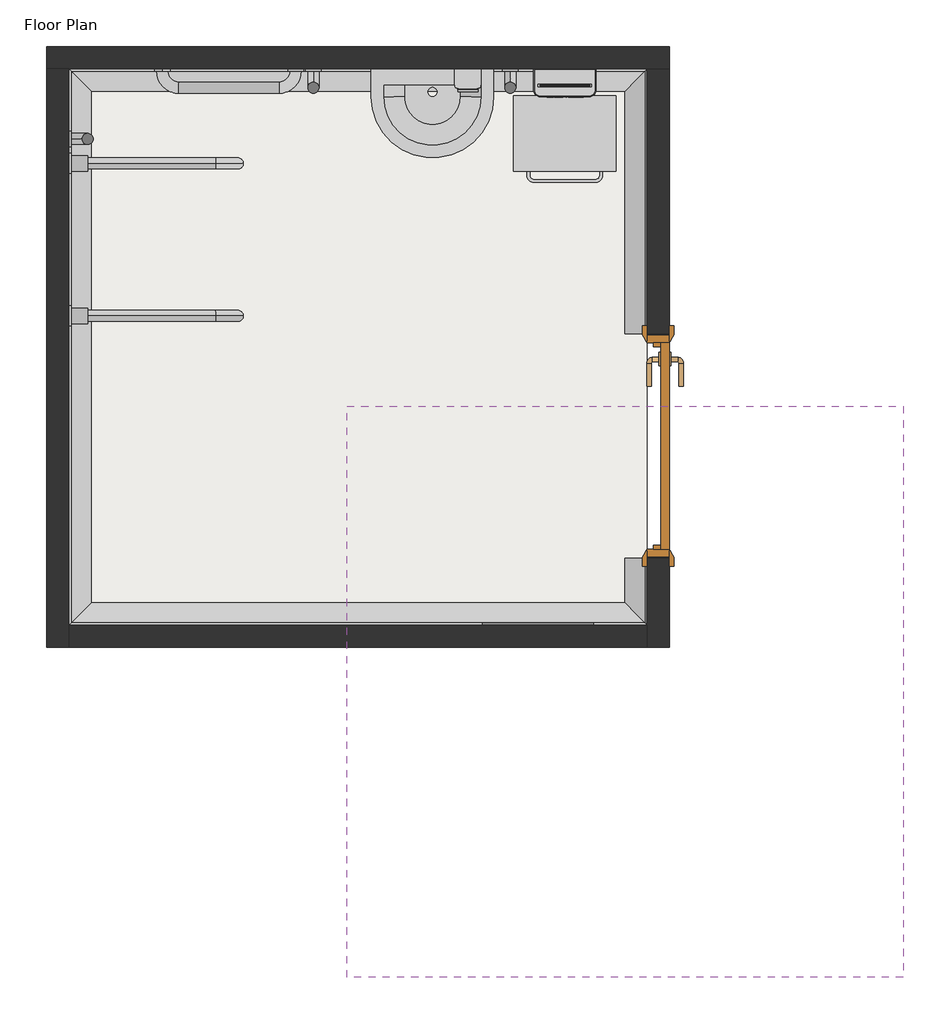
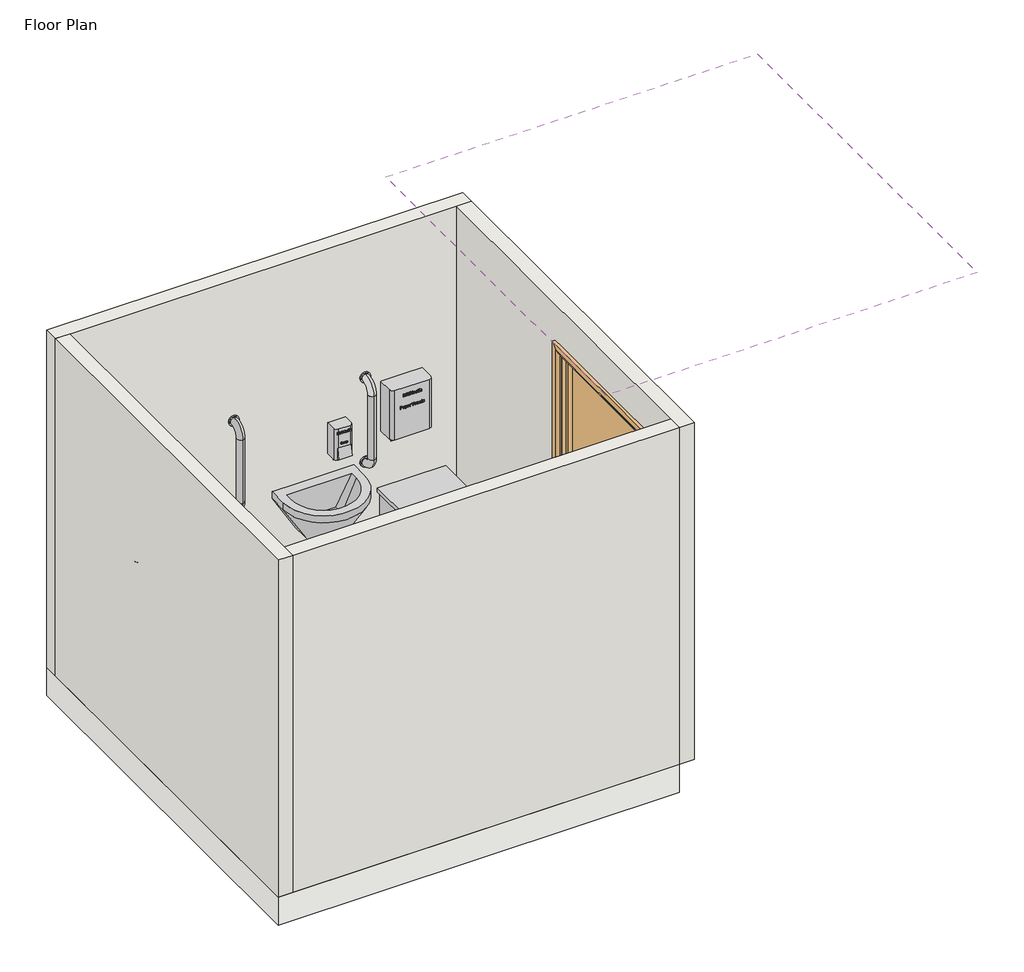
# One storey, incomplete: 10 proxies, 4 furniture elements, 4 walls, 1 covering, 1 door, 1 flow terminal, 1 slab.
"""IFC4 building model written with IfcOpenShell, lengths in millimetres."""

from ifc_helpers import new_model, si_unit, frame, origin, origin_with_axes, place, context, project, spatial, polyline, circle_curve, ellipse_curve, outline, extrude, faceted_brep, transform, mapped, element, save
from ifc_brep_helpers import plane_surface, revolved_surface, advanced_brep
from components import type_1_3e4eb001, type_1_f4c963d5, type_1_f76a5bbc, type_1_f275d547, type_1_04eb1ea4, door_1010x2110mm_f9eb5fde, flow_terminal_9bf15598, furniture_29951476, furniture_af9008cf, furniture_166ce8d1, furniture_26d36cfe

model = new_model("IFC4")

# Units and contexts
model_context = context("Model", 3, world=origin())
ifc_project = project(units=[si_unit("LENGTHUNIT", "METRE", prefix="MILLI")], contexts=[model_context])

# Site, building, storey
site = spatial("IfcSite", under=ifc_project)
building = spatial("IfcBuilding", under=site)
storey = spatial("IfcBuildingStorey", under=building, Name="Floor Plan", Elevation=0.0)

# Proxies
placement = place(None, origin())
element("IfcBuildingElementProxy", 1, Name="Wall Sweeps", at=placement, inside=storey, context=model_context, shape_type="AdvancedBrep", body=[
    advanced_brep(
    [(2105.0, 4225.0, 0.0), (2105.0, 4225.0, 100.0), (2095.0, 4225.0, 100.0), (2005.0, 4225.0, 10.0), (2005.0, 4225.0, 0.0), (2105.0, 5415.0, 0.0), (2005.0, 5315.0, 0.0), (2005.0, 5315.0, 10.0), (2095.0, 5405.0, 100.0), (2105.0, 5415.0, 100.0)],
    [
        (0, 1),
        (1, 2),
        (2, 3, circle_curve(frame((2005.0, 4225.0, 100.0), z_axis=(0.0, 1.0, 0.0), x_axis=(-1.0, 0.0, 0.0)), 90.0)),
        (3, 4),
        (4, 0),
        (5, 6),
        (6, 7),
        (7, 8, ellipse_curve(frame((2005.0, 5315.0, 100.0), z_axis=(0.7071067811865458, -0.7071067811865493, 0.0), x_axis=(0.7071067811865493, 0.7071067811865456, 0.0)), 127.2792206, 90.0)),
        (8, 9),
        (9, 5),
        (4, 6),
        (5, 0),
        (3, 7),
        (2, 8),
        (1, 9),
    ],
    [
        plane_surface(frame((2004.5012438, 4225.0, 0.0), z_axis=(0.0, -1.0, 0.0), x_axis=(0.0, 0.0, 1.0))),
        plane_surface(frame((2105.0, 5415.0, -304.8), z_axis=(-0.7071067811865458, 0.7071067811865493, 0.0), x_axis=(-0.7071067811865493, -0.7071067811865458, 0.0))),
        plane_surface(frame((2005.0, 4225.0, 0.0), z_axis=(0.0, 0.0, -1.0), x_axis=(0.0, 1.0, 0.0))),
        plane_surface(frame((2005.0, 4225.0, 10.0), z_axis=(-1.0, 0.0, 0.0), x_axis=(0.0, 1.0, 0.0))),
        revolved_surface(polyline([(1915.0, 5405.0, 100.0), (1915.0, 4225.0, 100.0)]), (2005.0, 4225.0, 100.0), (0.0, 1.0, 0.0)),
        plane_surface(frame((2105.0, 4225.0, 100.0), z_axis=(0.0, 0.0, 1.0), x_axis=(0.0, 1.0, 0.0))),
        plane_surface(frame((2105.0, 4225.0, 0.0), z_axis=(1.0, 0.0, 0.0), x_axis=(0.0, 1.0, 0.0))),
    ],
    [
        (0, [[1, 2, 3, 4, 5]]),
        (1, [[6, 7, 8, 9, 10]]),
        (2, [[-5, 11, -6, 12]]),
        (3, [[-4, 13, -7, -11]]),
        (4, [[-3, 14, -8, -13]]),
        (5, [[-2, 15, -9, -14]]),
        (6, [[-1, -12, -10, -15]]),
    ],
),
    advanced_brep(
    [(2105.0, 2915.0, 0.0), (2105.0, 2915.0, 100.0), (2095.0, 2925.0, 100.0), (2005.0, 3015.0, 10.0), (2005.0, 3015.0, 0.0), (2105.0, 3215.0, 0.0), (2005.0, 3215.0, 0.0), (2005.0, 3215.0, 10.0), (2095.0, 3215.0, 100.0), (2105.0, 3215.0, 100.0)],
    [
        (0, 1),
        (1, 2),
        (2, 3, ellipse_curve(frame((2005.0, 3015.0, 100.0), z_axis=(0.7071067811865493, 0.7071067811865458, 0.0), x_axis=(-0.7071067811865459, 0.7071067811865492, 0.0)), 127.2792206, 90.0)),
        (3, 4),
        (4, 0),
        (5, 6),
        (6, 7),
        (7, 8, circle_curve(frame((2005.0, 3215.0, 100.0), z_axis=(0.0, -1.0, 0.0), x_axis=(-1.0, 0.0, 0.0)), 90.0)),
        (8, 9),
        (9, 5),
        (4, 6),
        (5, 0),
        (3, 7),
        (2, 8),
        (1, 9),
    ],
    [
        plane_surface(frame((2105.0, 2915.0, -304.8), z_axis=(-0.7071067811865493, -0.7071067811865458, 0.0), x_axis=(-0.7071067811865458, 0.7071067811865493, 0.0))),
        plane_surface(frame((2004.5012438, 3215.0, 0.0), z_axis=(0.0, 1.0, 0.0), x_axis=(0.0, 0.0, 1.0))),
        plane_surface(frame((2005.0, 3015.0, 0.0), z_axis=(0.0, 0.0, -1.0), x_axis=(0.0, 1.0, 0.0))),
        plane_surface(frame((2005.0, 3015.0, 10.0), z_axis=(-1.0, 0.0, 0.0), x_axis=(0.0, 1.0, 0.0))),
        revolved_surface(polyline([(1915.0, 3215.0, 100.0), (1915.0, 2925.0, 100.0)]), (2005.0, 2915.0, 100.0), (0.0, 1.0, 0.0)),
        plane_surface(frame((2105.0, 2915.0, 100.0), z_axis=(0.0, 0.0, 1.0), x_axis=(0.0, 1.0, 0.0))),
        plane_surface(frame((2105.0, 2915.0, 0.0), z_axis=(1.0, 0.0, 0.0), x_axis=(0.0, 1.0, 0.0))),
    ],
    [
        (0, [[1, 2, 3, 4, 5]]),
        (1, [[6, 7, 8, 9, 10]]),
        (2, [[-5, 11, -6, 12]]),
        (3, [[-4, 13, -7, -11]]),
        (4, [[-3, 14, -8, -13]]),
        (5, [[-2, 15, -9, -14]]),
        (6, [[-1, -12, -10, -15]]),
    ],
),
])
element("IfcBuildingElementProxy", 2, Name="Wall Sweeps", at=placement, inside=storey, context=model_context, shape_type="AdvancedBrep", body=[
    advanced_brep(
    [(-495.0, 5415.0, 0.0), (-395.0, 5315.0, 0.0), (-395.0, 5315.0, 10.0), (-485.0, 5405.0, 100.0), (-495.0, 5415.0, 100.0), (2105.0, 5415.0, 0.0), (2105.0, 5415.0, 100.0), (2095.0, 5405.0, 100.0), (2005.0, 5315.0, 10.0), (2005.0, 5315.0, 0.0)],
    [
        (0, 1),
        (1, 2),
        (2, 3, ellipse_curve(frame((-395.0, 5315.0, 100.0), z_axis=(0.7071067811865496, 0.7071067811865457, 0.0), x_axis=(0.7071067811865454, -0.7071067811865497, 0.0)), 127.2792206, 90.0)),
        (3, 4),
        (4, 0),
        (5, 6),
        (6, 7),
        (7, 8, ellipse_curve(frame((2005.0, 5315.0, 100.0), z_axis=(-0.7071067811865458, 0.7071067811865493, 0.0), x_axis=(0.7071067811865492, 0.7071067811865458, 0.0)), 127.2792206, 90.0)),
        (8, 9),
        (9, 5),
        (0, 5),
        (9, 1),
        (8, 2),
        (7, 3),
        (6, 4),
    ],
    [
        plane_surface(frame((-495.0, 5415.0, 304.8), z_axis=(-0.7071067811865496, -0.7071067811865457, 0.0), x_axis=(0.7071067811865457, -0.7071067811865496, 0.0))),
        plane_surface(frame((2105.0, 5415.0, 304.8), z_axis=(0.7071067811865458, -0.7071067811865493, 0.0), x_axis=(-0.7071067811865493, -0.7071067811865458, 0.0))),
        plane_surface(frame((-495.0, 5415.0, 0.0), z_axis=(0.0, 0.0, -1.0), x_axis=(1.0, 0.0, 0.0))),
        plane_surface(frame((-395.0, 5315.0, 0.0), z_axis=(0.0, -1.0, 0.0), x_axis=(1.0, 0.0, 0.0))),
        revolved_surface(polyline([(2095.0, 5225.0, 100.0), (-485.0, 5225.0, 100.0)]), (-495.0, 5315.0, 100.0), (1.0, 0.0, 0.0)),
        plane_surface(frame((-485.0, 5405.0, 100.0), z_axis=(0.0, 0.0, 1.0), x_axis=(1.0, 0.0, 0.0))),
        plane_surface(frame((-495.0, 5415.0, 100.0), z_axis=(0.0, 1.0, 0.0), x_axis=(1.0, 0.0, 0.0))),
    ],
    [
        (0, [[1, 2, 3, 4, 5]]),
        (1, [[6, 7, 8, 9, 10]]),
        (2, [[-1, 11, -10, 12]]),
        (3, [[-2, -12, -9, 13]]),
        (4, [[-3, -13, -8, 14]]),
        (5, [[-4, -14, -7, 15]]),
        (6, [[-5, -15, -6, -11]]),
    ],
),
])
element("IfcBuildingElementProxy", 3, Name="Wall Sweeps", at=placement, inside=storey, context=model_context, shape_type="AdvancedBrep", body=[
    advanced_brep(
    [(-495.0, 5415.0, 0.0), (-495.0, 5415.0, 100.0), (-485.0, 5405.0, 100.0), (-395.0, 5315.0, 10.0), (-395.0, 5315.0, 0.0), (-495.0, 2915.0, 0.0), (-395.0, 3015.0, 0.0), (-395.0, 3015.0, 10.0), (-485.0, 2925.0, 100.0), (-495.0, 2915.0, 100.0)],
    [
        (0, 1),
        (1, 2),
        (2, 3, ellipse_curve(frame((-395.0, 5315.0, 100.0), z_axis=(-0.7071067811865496, -0.7071067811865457, 0.0), x_axis=(0.7071067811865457, -0.7071067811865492, 0.0)), 127.2792206, 90.0)),
        (3, 4),
        (4, 0),
        (5, 6),
        (6, 7),
        (7, 8, ellipse_curve(frame((-395.0, 3015.0, 100.0), z_axis=(-0.707106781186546, 0.7071067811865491, 0.0), x_axis=(-0.7071067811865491, -0.7071067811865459, 0.0)), 127.2792206, 90.0)),
        (8, 9),
        (9, 5),
        (0, 5),
        (9, 1),
        (8, 2),
        (7, 3),
        (6, 4),
    ],
    [
        plane_surface(frame((-495.0, 5415.0, -304.8), z_axis=(0.7071067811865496, 0.7071067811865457, 0.0), x_axis=(0.7071067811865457, -0.7071067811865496, 0.0))),
        plane_surface(frame((-495.0, 2915.0, -304.8), z_axis=(0.707106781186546, -0.7071067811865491, 0.0), x_axis=(0.7071067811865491, 0.707106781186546, 0.0))),
        plane_surface(frame((-495.0, 5415.0, 0.0), z_axis=(-1.0, 0.0, 0.0), x_axis=(0.0, -1.0, 0.0))),
        plane_surface(frame((-495.0, 5415.0, 100.0), z_axis=(0.0, 0.0, 1.0), x_axis=(0.0, -1.0, 0.0))),
        revolved_surface(polyline([(-305.0, 2925.0, 100.0), (-305.0, 5405.0, 100.0)]), (-395.0, 5415.0, 100.0), (0.0, -1.0, 0.0)),
        plane_surface(frame((-395.0, 5315.0, 10.0), z_axis=(1.0, 0.0, 0.0), x_axis=(0.0, -1.0, 0.0))),
        plane_surface(frame((-395.0, 5315.0, 0.0), z_axis=(0.0, 0.0, -1.0), x_axis=(0.0, -1.0, 0.0))),
    ],
    [
        (0, [[1, 2, 3, 4, 5]]),
        (1, [[6, 7, 8, 9, 10]]),
        (2, [[-1, 11, -10, 12]]),
        (3, [[-2, -12, -9, 13]]),
        (4, [[-3, -13, -8, 14]]),
        (5, [[-4, -14, -7, 15]]),
        (6, [[-5, -15, -6, -11]]),
    ],
),
])
element("IfcBuildingElementProxy", 4, Name="Wall Sweeps", at=placement, inside=storey, context=model_context, shape_type="AdvancedBrep", body=[
    advanced_brep(
    [(-495.0, 2915.0, 0.0), (-495.0, 2915.0, 100.0), (-485.0, 2925.0, 100.0), (-395.0, 3015.0, 10.0), (-395.0, 3015.0, 0.0), (2105.0, 2915.0, 0.0), (2005.0, 3015.0, 0.0), (2005.0, 3015.0, 10.0), (2095.0, 2925.0, 100.0), (2105.0, 2915.0, 100.0)],
    [
        (0, 1),
        (1, 2),
        (2, 3, ellipse_curve(frame((-395.0, 3015.0, 100.0), z_axis=(0.7071067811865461, -0.7071067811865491, 0.0), x_axis=(0.7071067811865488, 0.7071067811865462, 0.0)), 127.2792206, 90.0)),
        (3, 4),
        (4, 0),
        (5, 6),
        (6, 7),
        (7, 8, ellipse_curve(frame((2005.0, 3015.0, 100.0), z_axis=(-0.7071067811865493, -0.7071067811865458, 0.0), x_axis=(0.7071067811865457, -0.7071067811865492, 0.0)), 127.2792206, 90.0)),
        (8, 9),
        (9, 5),
        (0, 5),
        (9, 1),
        (8, 2),
        (7, 3),
        (6, 4),
    ],
    [
        plane_surface(frame((-495.0, 2915.0, -304.8), z_axis=(-0.7071067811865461, 0.7071067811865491, 0.0), x_axis=(0.7071067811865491, 0.7071067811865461, 0.0))),
        plane_surface(frame((2105.0, 2915.0, -304.8), z_axis=(0.7071067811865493, 0.7071067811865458, 0.0), x_axis=(-0.7071067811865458, 0.7071067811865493, 0.0))),
        plane_surface(frame((-495.0, 2915.0, 0.0), z_axis=(0.0, -1.0, 0.0), x_axis=(1.0, 0.0, 0.0))),
        plane_surface(frame((-495.0, 2915.0, 100.0), z_axis=(0.0, 0.0, 1.0), x_axis=(1.0, 0.0, 0.0))),
        revolved_surface(polyline([(2095.0, 3105.0, 100.0), (-485.0, 3105.0, 100.0)]), (-495.0, 3015.0, 100.0), (1.0, 0.0, 0.0)),
        plane_surface(frame((-395.0, 3015.0, 10.0), z_axis=(0.0, 1.0, 0.0), x_axis=(1.0, 0.0, 0.0))),
        plane_surface(frame((-395.0, 3015.0, 0.0), z_axis=(0.0, 0.0, -1.0), x_axis=(1.0, 0.0, 0.0))),
    ],
    [
        (0, [[1, 2, 3, 4, 5]]),
        (1, [[6, 7, 8, 9, 10]]),
        (2, [[-1, 11, -10, 12]]),
        (3, [[-2, -12, -9, 13]]),
        (4, [[-3, -13, -8, 14]]),
        (5, [[-4, -14, -7, 15]]),
        (6, [[-5, -15, -6, -11]]),
    ],
),
])
type_1_shape = type_1_3e4eb001(model_context)
element("IfcBuildingElementProxy", 5, Name="BIMHealth-Grab_Rail_Vertical-LOD2A-v1 : Type 1", ObjectType="BIMHealth-Grab_Rail_Vertical-LOD2A-v1 : Type 1", at=placement, inside=storey, context=model_context, shape_type="MappedRepresentation", body=[
    mapped(type_1_shape, transform((730.0, 5465.0, 0.0), x_axis=(-1.0, 0.0, 0.0), y_axis=(0.0, -1.0, 0.0), z_axis=(0.0, 0.0, 1.0))),
])
type_1_2_shape = type_1_f4c963d5(model_context)
element("IfcBuildingElementProxy", 6, Name="BIMHealth-Grab_Rail_Vertical-LOD2A-v1 : Type 1", ObjectType="BIMHealth-Grab_Rail_Vertical-LOD2A-v1 : Type 1", at=placement, inside=storey, context=model_context, shape_type="MappedRepresentation", body=[
    mapped(type_1_2_shape, transform((1365.0, 5465.0, 0.0), x_axis=(1.0, 0.0, 0.0), y_axis=(0.0, 1.0, 0.0), z_axis=(0.0, 0.0, 1.0))),
])
element("IfcBuildingElementProxy", 7, Name="BIMHealth-Grab_Rail_Vertical-LOD2A-v1 : Type 1", ObjectType="BIMHealth-Grab_Rail_Vertical-LOD2A-v1 : Type 1", at=placement, inside=storey, context=model_context, shape_type="MappedRepresentation", body=[
    mapped(type_1_2_shape, transform((-545.0, 4975.0, 0.0), x_axis=(0.0, 1.0, 0.0), y_axis=(-1.0, 0.0, 0.0), z_axis=(0.0, 0.0, 1.0))),
])
type_1_3_shape = type_1_f76a5bbc(model_context)
element("IfcBuildingElementProxy", 8, Name="BIMHealth-Grab_Rail_Horizontal-LOD2A-v1 : Type 1", ObjectType="BIMHealth-Grab_Rail_Horizontal-LOD2A-v1 : Type 1", at=placement, inside=storey, context=model_context, shape_type="MappedRepresentation", body=[
    mapped(type_1_3_shape, transform((100.0, 5465.0, 0.0), x_axis=(1.0, 0.0, 0.0), y_axis=(0.0, 1.0, 0.0), z_axis=(0.0, 0.0, 1.0))),
])
type_1_4_shape = type_1_f275d547(model_context)
element("IfcBuildingElementProxy", 9, Name="BIMHealth-Grab_Rail_Drop_Down-LOD2A-v1 : Type 1", ObjectType="BIMHealth-Grab_Rail_Drop_Down-LOD2A-v1 : Type 1", at=placement, inside=storey, context=model_context, shape_type="MappedRepresentation", body=[
    mapped(type_1_4_shape, transform((-545.0, 4865.0, 0.0), x_axis=(0.0, 1.0, 0.0), y_axis=(-1.0, 0.0, 0.0), z_axis=(0.0, 0.0, 1.0))),
])
type_1_5_shape = type_1_04eb1ea4(model_context)
element("IfcBuildingElementProxy", 10, Name="BIMHealth-Grab_Rail_Drop_Down-LOD2A-v1 : Type 1", ObjectType="BIMHealth-Grab_Rail_Drop_Down-LOD2A-v1 : Type 1", at=placement, inside=storey, context=model_context, shape_type="MappedRepresentation", body=[
    mapped(type_1_5_shape, transform((-545.0, 4430.0, 0.0), x_axis=(0.0, -1.0, 0.0), y_axis=(1.0, 0.0, 0.0), z_axis=(0.0, 0.0, 1.0))),
])

# Covering
element("IfcCovering", 11, ObjectType="BIMHealth - Generic Ceiling", at=placement, inside=storey, context=model_context, shape_type="SweptSolid", body=[
    extrude(outline(polyline([(3256.0020268, 1331.4241738), (756.0020268, 1331.4241738), (756.0020268, 3898.7260975), (3256.0020268, 3898.7260975), (3256.0020268, 1331.4241738)])), frame((0.0, 0.0, 4000.0), z_axis=(0.0, 0.0, 1.0), x_axis=(1.0, 0.0, 0.0)), (0.0, 0.0, 1.0), 52.0),
])

# Door
door_1010x2110mm_shape = door_1010x2110mm_f9eb5fde(model_context)
element("IfcDoor", 12, ObjectType="BIMHealth-Single_Door-LOD2A-v1 : 1010x2110mm", at=placement, inside=storey, context=model_context, shape_type="MappedRepresentation", body=[
    mapped(door_1010x2110mm_shape, transform((2155.0, 3720.0, 0.0), x_axis=(0.0, -1.0, 0.0), y_axis=(1.0, 0.0, 0.0), z_axis=(0.0, 0.0, 1.0))),
])

# Flow terminal
flow_terminal_shape = flow_terminal_9bf15598(model_context)
element("IfcFlowTerminal", 13, ObjectType="BIMHealth-Wash_basin_Doc_M-LOD2A-v1 : BIMHealth-Wash_basin_Doc_M-LOD2A-v1", at=placement, inside=storey, context=model_context, shape_type="MappedRepresentation", body=[
    mapped(flow_terminal_shape, transform((1415.0, 5415.0, 500.0), x_axis=(-1.0000000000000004, 0.0, 0.0), y_axis=(0.0, -1.0000000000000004, 0.0), z_axis=(0.0, 0.0, 1.0))),
])

# Furniture
furniture_shape = furniture_29951476(model_context)
element("IfcFurniture", 14, ObjectType="BIMHealth-Mirror_Consultation-LOD2A-v1 : BIMHealth-Mirror_Consultation-LOD2A-v1", at=placement, inside=storey, context=model_context, shape_type="MappedRepresentation", body=[
    mapped(furniture_shape, transform((1865.0, 2915.0, -500.0), x_axis=(-1.0, 0.0, 0.0), y_axis=(0.0, -1.0, 0.0), z_axis=(0.0, 0.0, 1.0))),
])
furniture_2_shape = furniture_af9008cf(model_context)
element("IfcFurniture", 15, ObjectType="BIMHealth-Bin_Clinical_Foot_Operated-LOD2A-v1 : BIMHealth-Bin_Clinical_Foot_Operated-LOD2A-v1", at=placement, inside=storey, context=model_context, shape_type="MappedRepresentation", body=[
    mapped(furniture_2_shape, transform((1955.0, 5285.0, 0.0), x_axis=(-1.0000000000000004, 0.0, 0.0), y_axis=(0.0, -1.0000000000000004, 0.0), z_axis=(0.0, 0.0, 1.0))),
])
furniture_3_shape = furniture_166ce8d1(model_context)
element("IfcFurniture", 16, ObjectType="BIMHealth-Paper_Towel_Dispenser-LOD2A-v1 : BIMHealth-Paper_Towel_Dispenser-LOD2A-v1", at=placement, inside=storey, context=model_context, shape_type="MappedRepresentation", body=[
    mapped(furniture_3_shape, transform((1595.0, 5415.0, -218.992029), x_axis=(1.0, 0.0, 0.0), y_axis=(0.0, 1.0, 0.0), z_axis=(0.0, 0.0, 1.0))),
])
furniture_4_shape = furniture_26d36cfe(model_context)
element("IfcFurniture", 17, ObjectType="BIMHealth-Soap_Dispenser-LOD2A-v1 : BIMHealth-Soap_Dispenser-LOD2A-v1", at=placement, inside=storey, context=model_context, shape_type="MappedRepresentation", body=[
    mapped(furniture_4_shape, transform((1239.0, 5415.0, -258.992029), x_axis=(1.0, 0.0, 0.0), y_axis=(0.0, 1.0, 0.0), z_axis=(0.0, 0.0, 1.0))),
])

# Slab
element("IfcSlab", 18, ObjectType="BIMHealth - Generic Floor", at=placement, inside=storey, context=model_context, shape_type="SweptSolid", body=[
    extrude(outline(polyline([(2105.0, 5515.0), (2105.0, 2815.0), (-595.0, 2815.0), (-595.0, 5515.0), (2105.0, 5515.0)])), frame((0.0, 0.0, -200.0), z_axis=(0.0, 0.0, 1.0), x_axis=(1.0, 0.0, 0.0)), (0.0, 0.0, 1.0), 200.0),
])

# Walls
element("IfcWall", 19, ObjectType="BIMHealth - Generic Wall", at=placement, inside=storey, context=model_context, shape_type="Brep", body=[
    faceted_brep([(2205.0, 5415.0, 2400.0), (2205.0, 2815.0, 2400.0), (2205.0, 2815.0, 0.0), (2205.0, 3215.0, 0.0), (2205.0, 3215.0, 2110.0), (2205.0, 4225.0, 2110.0), (2205.0, 4225.0, 0.0), (2205.0, 5415.0, 0.0), (2105.0, 2815.0, 2400.0), (2105.0, 2915.0, 2400.0), (2105.0, 5415.0, 2400.0), (2105.0, 5415.0, 0.0), (2105.0, 4225.0, 0.0), (2105.0, 4225.0, 100.0), (2105.0, 4225.0, 2110.0), (2105.0, 3215.0, 2110.0), (2105.0, 3215.0, 100.0), (2105.0, 3215.0, 0.0), (2105.0, 2915.0, 0.0), (2105.0, 2815.0, 0.0)], [[[0, 1, 2, 3, 4, 5, 6, 7]], [[8, 9, 10, 11, 12, 13, 14, 15, 16, 17, 18, 19]], [[2, 19, 18, 17, 3]], [[11, 7, 6, 12]], [[1, 0, 10, 9, 8]], [[15, 4, 3, 17, 16]], [[4, 15, 14, 5]], [[5, 14, 13, 12, 6]], [[2, 1, 8, 19]], [[0, 7, 11, 10]]]),
])
element("IfcWall", 20, ObjectType="BIMHealth - Generic Wall", at=placement, inside=storey, context=model_context, shape_type="Brep", body=[
    faceted_brep([(-595.0, 5415.0, 0.0), (-495.0, 5415.0, 0.0), (2105.0, 5415.0, 0.0), (2205.0, 5415.0, 0.0), (2205.0, 5415.0, 2400.0), (2105.0, 5415.0, 2400.0), (-495.0, 5415.0, 2400.0), (-595.0, 5415.0, 2400.0), (-595.0, 5515.0, 0.0), (-595.0, 5515.0, 2400.0), (2205.0, 5515.0, 2400.0), (2205.0, 5515.0, 0.0)], [[[0, 1, 2, 3, 4, 5, 6, 7]], [[8, 9, 10, 11]], [[3, 2, 1, 0, 8, 11]], [[7, 6, 5, 4, 10, 9]], [[0, 7, 9, 8]], [[4, 3, 11, 10]]]),
])
element("IfcWall", 21, ObjectType="BIMHealth - Generic Wall", at=placement, inside=storey, context=model_context, shape_type="Brep", body=[
    faceted_brep([(-595.0, 5415.0, 0.0), (-595.0, 2815.0, 0.0), (-595.0, 2815.0, 2400.0), (-595.0, 5415.0, 2400.0), (-495.0, 5415.0, 0.0), (-495.0, 5415.0, 2400.0), (-495.0, 2915.0, 2400.0), (-495.0, 2815.0, 2400.0), (-495.0, 2815.0, 0.0), (-495.0, 2915.0, 0.0)], [[[0, 1, 2, 3]], [[4, 5, 6, 7, 8, 9]], [[1, 0, 4, 9, 8]], [[3, 2, 7, 6, 5]], [[0, 3, 5, 4]], [[2, 1, 8, 7]]]),
])
element("IfcWall", 22, ObjectType="BIMHealth - Generic Wall", at=placement, inside=storey, context=model_context, shape_type="SweptSolid", body=[
    extrude(outline(polyline([(2105.0, 2815.0), (-495.0, 2815.0), (-495.0, 2915.0), (2105.0, 2915.0), (2105.0, 2815.0)])), origin_with_axes(), (0.0, 0.0, 1.0), 2400.0),
])

save(model, "model.ifc")
